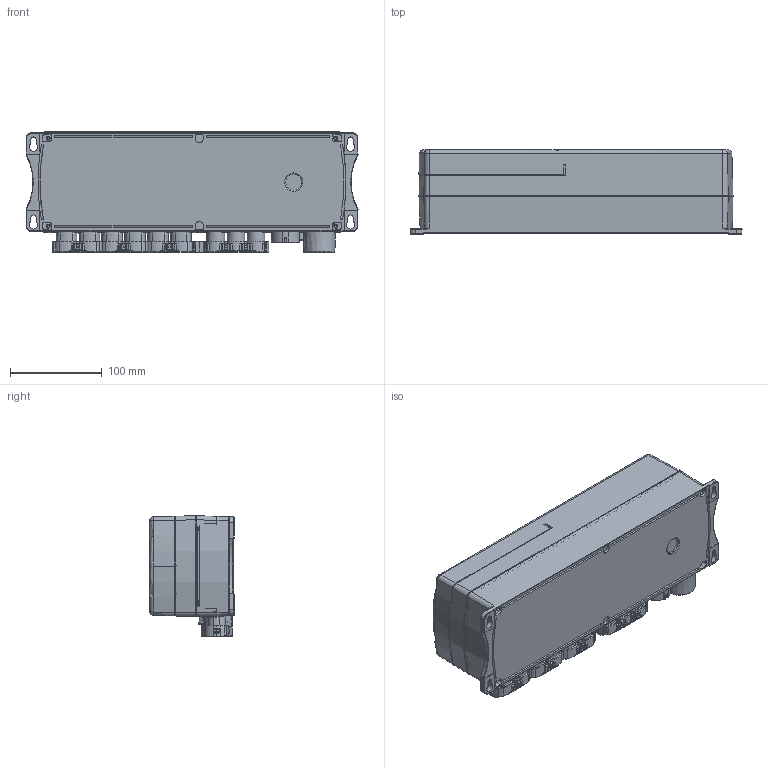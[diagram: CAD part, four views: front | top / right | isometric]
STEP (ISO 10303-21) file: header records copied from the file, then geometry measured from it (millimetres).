
FILE_DESCRIPTION (( 'STEP AP203' ), '1' );
FILE_NAME ('kontrol kutusu DOLU.STEP', '2023-07-26T12:58:50', ( '' ), ( '' ), 'SwSTEP 2.0', 'SolidWorks 2023', '' );
FILE_SCHEMA (( 'CONFIG_CONTROL_DESIGN' ));
Length unit declared in the file: millimetre
Products named in the file (1): kontrol kutusu DOLU
Bounding box: 362.31 x 92 x 131.6 mm (x, y, z)
Volume: 3369032.1 mm3; surface area: 235818.6 mm2
Topology: 2 solids, 10 shells, 1833 faces, 4970 edges, 3159 vertices
Faces by surface type: plane 728, cylinder 607, torus 301, bspline 112, cone 85
Entity records: 61082 total; most frequent: CARTESIAN_POINT 15498, ORIENTED_EDGE 9924, DIRECTION 9580, EDGE_CURVE 4962, AXIS2_PLACEMENT_3D 3630, VERTEX_POINT 3159, VECTOR 2320, LINE 2320
